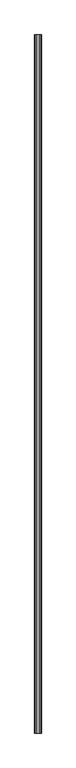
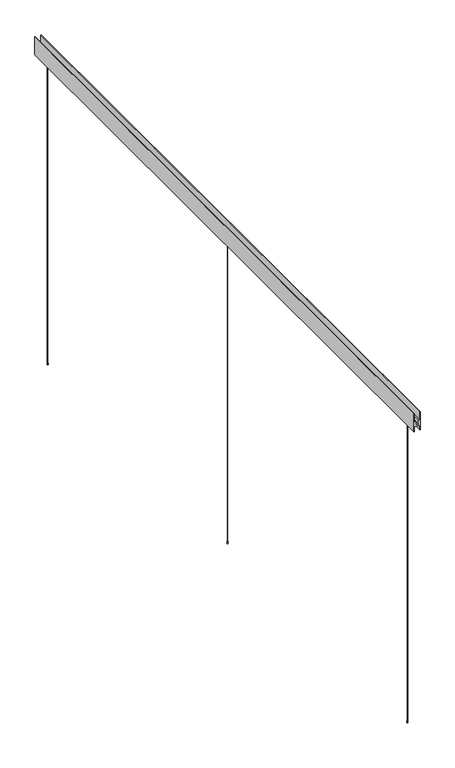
"""IFC4 building model written with IfcOpenShell, lengths in millimetres: light fixture geometry, Zumtobel SUPERSYSTEM II Track H : 3PH/L3+DALI Track 3000 WH + Track Profile."""

from ifc_helpers import new_model, si_unit, frame, origin, place, context, project, spatial, polyline, circle_curve, outline, extrude, source, transform, mapped, element, save
from ifc_brep_helpers import plane_surface, cylinder_surface, advanced_brep


def light_fixture_d14a7875(model_context):
    return source(origin(), model_context, "Body", "SolidModel", [
        advanced_brep(
        [(-241.8, -250.0, 13.0), (-236.6, -250.0, 13.0), (-240.2, -250.0, 13.0), (-238.2, -250.0, 13.0), (-241.8, -250.0, 0.0), (-236.6, -250.0, 0.0), (-237.2, -250.0, 1970.0), (-241.2, -250.0, 1970.0), (-238.2, -250.0, 1955.0), (-240.2, -250.0, 1955.0), (-237.2, -250.0, 1955.0), (-241.2, -250.0, 1955.0)],
        [
            (0, 1, circle_curve(frame((-239.2, -250.0, 13.0), z_axis=(0.0, 0.0, 1.0), x_axis=(1.0, 0.0, 0.0)), 2.6)),
            (1, 0, circle_curve(frame((-239.2, -250.0, 13.0), z_axis=(0.0, 0.0, 1.0), x_axis=(1.0, 0.0, 0.0)), 2.6)),
            (2, 3, circle_curve(frame((-239.2, -250.0, 13.0), z_axis=(0.0, 0.0, -1.0), x_axis=(1.0, 0.0, 0.0)), 1.0)),
            (3, 2, circle_curve(frame((-239.2, -250.0, 13.0), z_axis=(0.0, 0.0, -1.0), x_axis=(1.0, 0.0, 0.0)), 1.0)),
            (4, 5, circle_curve(frame((-239.2, -250.0, 0.0), z_axis=(0.0, 0.0, -1.0), x_axis=(1.0, 0.0, 0.0)), 2.6)),
            (5, 4, circle_curve(frame((-239.2, -250.0, 0.0), z_axis=(0.0, 0.0, -1.0), x_axis=(1.0, 0.0, 0.0)), 2.6)),
            (0, 4),
            (5, 1),
            (6, 7, circle_curve(frame((-239.2, -250.0, 1970.0), z_axis=(0.0, 0.0, 1.0), x_axis=(-1.0, 0.0, 0.0)), 2.0)),
            (7, 6, circle_curve(frame((-239.2, -250.0, 1970.0), z_axis=(0.0, 0.0, 1.0), x_axis=(-1.0, 0.0, 0.0)), 2.0)),
            (3, 8),
            (8, 9, circle_curve(frame((-239.2, -250.0, 1955.0), z_axis=(0.0, 0.0, -1.0), x_axis=(1.0, 0.0, 0.0)), 1.0)),
            (9, 2),
            (9, 8, circle_curve(frame((-239.2, -250.0, 1955.0), z_axis=(0.0, 0.0, -1.0), x_axis=(1.0, 0.0, 0.0)), 1.0)),
            (10, 11, circle_curve(frame((-239.2, -250.0, 1955.0), z_axis=(0.0, 0.0, -1.0), x_axis=(-1.0, 0.0, 0.0)), 2.0)),
            (11, 10, circle_curve(frame((-239.2, -250.0, 1955.0), z_axis=(0.0, 0.0, -1.0), x_axis=(-1.0, 0.0, 0.0)), 2.0)),
            (11, 7),
            (6, 10),
        ],
        [
            plane_surface(frame((-236.6, -250.0, 13.0), z_axis=(0.0, 0.0, 1.0), x_axis=(0.0, -1.0, 0.0))),
            plane_surface(frame((-236.6, -250.0, 0.0), z_axis=(0.0, 0.0, -1.0), x_axis=(0.0, 1.0, 0.0))),
            cylinder_surface(frame((-239.2, -250.0, 13.0), z_axis=(0.0, 0.0, -1.0), x_axis=(1.0, 0.0, 0.0)), 2.6),
            plane_surface(frame((-238.2, -250.0, 1970.0), z_axis=(0.0, 0.0, 1.0), x_axis=(0.0, -1.0, 0.0))),
            cylinder_surface(frame((-239.2, -250.0, 1970.0), z_axis=(0.0, 0.0, -1.0), x_axis=(1.0, 0.0, 0.0)), 1.0),
            plane_surface(frame((-241.2, -250.0, 1955.0), z_axis=(0.0, 0.0, -1.0), x_axis=(0.0, -1.0, 0.0))),
            cylinder_surface(frame((-239.2, -250.0, 1970.0), z_axis=(0.0, 0.0, -1.0), x_axis=(-1.0, 0.0, 0.0)), 2.0),
        ],
        [
            (0, [[1, 2], [3, 4]]),
            (1, [[5, 6]]),
            (2, [[7, -6, 8, -1]]),
            (2, [[-8, -5, -7, -2]]),
            (3, [[9, 10]]),
            (4, [[11, 12, 13, -4]]),
            (4, [[-13, 14, -11, -3]]),
            (5, [[15, 16], [-14, -12]]),
            (6, [[17, -9, 18, -16]]),
            (6, [[-18, -10, -17, -15]]),
        ],
    ),
        advanced_brep(
        [(-241.8, -2150.0, 13.0), (-236.6, -2150.0, 13.0), (-240.2, -2150.0, 13.0), (-238.2, -2150.0, 13.0), (-241.8, -2150.0, 0.0), (-236.6, -2150.0, 0.0), (-237.2, -2150.0, 1970.0), (-241.2, -2150.0, 1970.0), (-238.2, -2150.0, 1955.0), (-240.2, -2150.0, 1955.0), (-237.2, -2150.0, 1955.0), (-241.2, -2150.0, 1955.0)],
        [
            (0, 1, circle_curve(frame((-239.2, -2150.0, 13.0), z_axis=(0.0, 0.0, 1.0), x_axis=(1.0, 0.0, 0.0)), 2.6)),
            (1, 0, circle_curve(frame((-239.2, -2150.0, 13.0), z_axis=(0.0, 0.0, 1.0), x_axis=(1.0, 0.0, 0.0)), 2.6)),
            (2, 3, circle_curve(frame((-239.2, -2150.0, 13.0), z_axis=(0.0, 0.0, -1.0), x_axis=(1.0, 0.0, 0.0)), 1.0)),
            (3, 2, circle_curve(frame((-239.2, -2150.0, 13.0), z_axis=(0.0, 0.0, -1.0), x_axis=(1.0, 0.0, 0.0)), 1.0)),
            (4, 5, circle_curve(frame((-239.2, -2150.0, 0.0), z_axis=(0.0, 0.0, -1.0), x_axis=(1.0, 0.0, 0.0)), 2.6)),
            (5, 4, circle_curve(frame((-239.2, -2150.0, 0.0), z_axis=(0.0, 0.0, -1.0), x_axis=(1.0, 0.0, 0.0)), 2.6)),
            (0, 4),
            (5, 1),
            (6, 7, circle_curve(frame((-239.2, -2150.0, 1970.0), z_axis=(0.0, 0.0, 1.0), x_axis=(-1.0, 0.0, 0.0)), 2.0)),
            (7, 6, circle_curve(frame((-239.2, -2150.0, 1970.0), z_axis=(0.0, 0.0, 1.0), x_axis=(-1.0, 0.0, 0.0)), 2.0)),
            (3, 8),
            (8, 9, circle_curve(frame((-239.2, -2150.0, 1955.0), z_axis=(0.0, 0.0, -1.0), x_axis=(1.0, 0.0, 0.0)), 1.0)),
            (9, 2),
            (9, 8, circle_curve(frame((-239.2, -2150.0, 1955.0), z_axis=(0.0, 0.0, -1.0), x_axis=(1.0, 0.0, 0.0)), 1.0)),
            (10, 11, circle_curve(frame((-239.2, -2150.0, 1955.0), z_axis=(0.0, 0.0, -1.0), x_axis=(-1.0, 0.0, 0.0)), 2.0)),
            (11, 10, circle_curve(frame((-239.2, -2150.0, 1955.0), z_axis=(0.0, 0.0, -1.0), x_axis=(-1.0, 0.0, 0.0)), 2.0)),
            (11, 7),
            (6, 10),
        ],
        [
            plane_surface(frame((-236.6, -2150.0, 13.0), z_axis=(0.0, 0.0, 1.0), x_axis=(0.0, -1.0, 0.0))),
            plane_surface(frame((-236.6, -2150.0, 0.0), z_axis=(0.0, 0.0, -1.0), x_axis=(0.0, 1.0, 0.0))),
            cylinder_surface(frame((-239.2, -2150.0, 13.0), z_axis=(0.0, 0.0, -1.0), x_axis=(1.0, 0.0, 0.0)), 2.6),
            plane_surface(frame((-238.2, -2150.0, 1970.0), z_axis=(0.0, 0.0, 1.0), x_axis=(0.0, -1.0, 0.0))),
            cylinder_surface(frame((-239.2, -2150.0, 1970.0), z_axis=(0.0, 0.0, -1.0), x_axis=(1.0, 0.0, 0.0)), 1.0),
            plane_surface(frame((-241.2, -2150.0, 1955.0), z_axis=(0.0, 0.0, -1.0), x_axis=(0.0, -1.0, 0.0))),
            cylinder_surface(frame((-239.2, -2150.0, 1970.0), z_axis=(0.0, 0.0, -1.0), x_axis=(-1.0, 0.0, 0.0)), 2.0),
        ],
        [
            (0, [[1, 2], [3, 4]]),
            (1, [[5, 6]]),
            (2, [[7, -6, 8, -1]]),
            (2, [[-8, -5, -7, -2]]),
            (3, [[9, 10]]),
            (4, [[11, 12, 13, -4]]),
            (4, [[-13, 14, -11, -3]]),
            (5, [[15, 16], [-14, -12]]),
            (6, [[17, -9, 18, -16]]),
            (6, [[-18, -10, -17, -15]]),
        ],
    ),
        advanced_brep(
        [(-241.8, 1650.0, 13.0), (-236.6, 1650.0, 13.0), (-240.2, 1650.0, 13.0), (-238.2, 1650.0, 13.0), (-241.8, 1650.0, 0.0), (-236.6, 1650.0, 0.0), (-237.2, 1650.0, 1970.0), (-241.2, 1650.0, 1970.0), (-238.2, 1650.0, 1955.0), (-240.2, 1650.0, 1955.0), (-237.2, 1650.0, 1955.0), (-241.2, 1650.0, 1955.0)],
        [
            (0, 1, circle_curve(frame((-239.2, 1650.0, 13.0), z_axis=(0.0, 0.0, 1.0), x_axis=(1.0, 0.0, 0.0)), 2.6)),
            (1, 0, circle_curve(frame((-239.2, 1650.0, 13.0), z_axis=(0.0, 0.0, 1.0), x_axis=(1.0, 0.0, 0.0)), 2.6)),
            (2, 3, circle_curve(frame((-239.2, 1650.0, 13.0), z_axis=(0.0, 0.0, -1.0), x_axis=(1.0, 0.0, 0.0)), 1.0)),
            (3, 2, circle_curve(frame((-239.2, 1650.0, 13.0), z_axis=(0.0, 0.0, -1.0), x_axis=(1.0, 0.0, 0.0)), 1.0)),
            (4, 5, circle_curve(frame((-239.2, 1650.0, 0.0), z_axis=(0.0, 0.0, -1.0), x_axis=(1.0, 0.0, 0.0)), 2.6)),
            (5, 4, circle_curve(frame((-239.2, 1650.0, 0.0), z_axis=(0.0, 0.0, -1.0), x_axis=(1.0, 0.0, 0.0)), 2.6)),
            (0, 4),
            (5, 1),
            (6, 7, circle_curve(frame((-239.2, 1650.0, 1970.0), z_axis=(0.0, 0.0, 1.0), x_axis=(-1.0, 0.0, 0.0)), 2.0)),
            (7, 6, circle_curve(frame((-239.2, 1650.0, 1970.0), z_axis=(0.0, 0.0, 1.0), x_axis=(-1.0, 0.0, 0.0)), 2.0)),
            (3, 8),
            (8, 9, circle_curve(frame((-239.2, 1650.0, 1955.0), z_axis=(0.0, 0.0, -1.0), x_axis=(1.0, 0.0, 0.0)), 1.0)),
            (9, 2),
            (9, 8, circle_curve(frame((-239.2, 1650.0, 1955.0), z_axis=(0.0, 0.0, -1.0), x_axis=(1.0, 0.0, 0.0)), 1.0)),
            (10, 11, circle_curve(frame((-239.2, 1650.0, 1955.0), z_axis=(0.0, 0.0, -1.0), x_axis=(-1.0, 0.0, 0.0)), 2.0)),
            (11, 10, circle_curve(frame((-239.2, 1650.0, 1955.0), z_axis=(0.0, 0.0, -1.0), x_axis=(-1.0, 0.0, 0.0)), 2.0)),
            (11, 7),
            (6, 10),
        ],
        [
            plane_surface(frame((-236.6, 1650.0, 13.0), z_axis=(0.0, 0.0, 1.0), x_axis=(0.0, -1.0, 0.0))),
            plane_surface(frame((-236.6, 1650.0, 0.0), z_axis=(0.0, 0.0, -1.0), x_axis=(0.0, 1.0, 0.0))),
            cylinder_surface(frame((-239.2, 1650.0, 13.0), z_axis=(0.0, 0.0, -1.0), x_axis=(1.0, 0.0, 0.0)), 2.6),
            plane_surface(frame((-238.2, 1650.0, 1970.0), z_axis=(0.0, 0.0, 1.0), x_axis=(0.0, -1.0, 0.0))),
            cylinder_surface(frame((-239.2, 1650.0, 1970.0), z_axis=(0.0, 0.0, -1.0), x_axis=(1.0, 0.0, 0.0)), 1.0),
            plane_surface(frame((-241.2, 1650.0, 1955.0), z_axis=(0.0, 0.0, -1.0), x_axis=(0.0, -1.0, 0.0))),
            cylinder_surface(frame((-239.2, 1650.0, 1970.0), z_axis=(0.0, 0.0, -1.0), x_axis=(-1.0, 0.0, 0.0)), 2.0),
        ],
        [
            (0, [[1, 2], [3, 4]]),
            (1, [[5, 6]]),
            (2, [[7, -6, 8, -1]]),
            (2, [[-8, -5, -7, -2]]),
            (3, [[9, 10]]),
            (4, [[11, 12, 13, -4]]),
            (4, [[-13, 14, -11, -3]]),
            (5, [[15, 16], [-14, -12]]),
            (6, [[17, -9, 18, -16]]),
            (6, [[-18, -10, -17, -15]]),
        ],
    ),
        extrude(outline(polyline([(1970.0, -256.2), (1970.0, -222.2), (1940.0, -222.2), (1940.0, -220.2), (2054.0, -220.2), (2054.0, -222.2), (2004.0, -222.2), (2004.0, -231.2), (1979.0, -231.2), (1979.0, -247.2), (2004.0, -247.2), (2004.0, -256.2), (2054.0, -256.2), (2054.0, -258.2), (1940.0, -258.2), (1940.0, -256.2), (1970.0, -256.2)])), frame((0.0, -2250.0, 0.0), z_axis=(0.0, 1.0, 0.0), x_axis=(0.0, 0.0, 1.0)), (0.0, 0.0, 1.0), 4000.0),
    ])


if __name__ == "__main__":
    model = new_model("IFC4")
    model_context = context("Model", 3, world=origin())
    ifc_project = project(units=[si_unit("LENGTHUNIT", "METRE", prefix="MILLI")], contexts=[model_context])
    site = spatial("IfcSite", under=ifc_project)
    building = spatial("IfcBuilding", under=site)
    placement = place(None, origin())
    light_fixture_shape = light_fixture_d14a7875(model_context)
    element("IfcLightFixture", 1, ObjectType="Zumtobel SUPERSYSTEM II Track H : 3PH/L3+DALI Track 3000 WH + Track Profile", at=placement, inside=building, context=model_context, shape_type="MappedRepresentation", body=[
        mapped(light_fixture_shape, transform((0.0, 0.0, 0.0), x_axis=(1.0, 0.0, 0.0), y_axis=(0.0, 1.0, 0.0), z_axis=(0.0, 0.0, 1.0))),
    ])
    save(model, "model.ifc")
